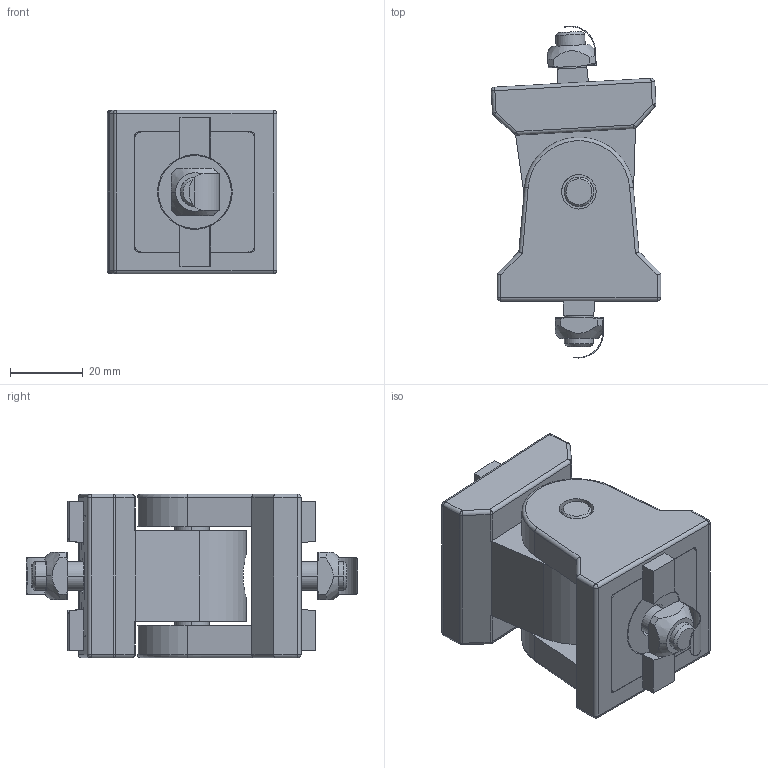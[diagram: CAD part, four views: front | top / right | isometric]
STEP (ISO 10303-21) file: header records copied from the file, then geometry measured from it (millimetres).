
FILE_DESCRIPTION (( 'STEP AP214' ), '1' );
FILE_NAME ('1.4051 Kulmauloke GL.STEP', '2025-09-11T10:58:16', ( '' ), ( '' ), 'SwSTEP 2.0', 'SolidWorks 2025', '' );
FILE_SCHEMA (( 'AUTOMOTIVE_DESIGN' ));
Length unit declared in the file: millimetre
Products named in the file (4): 1.4051 Kulmauloke GL; GL Alaosa; 1.2014 Neliömutteri M8 kiinnityslevyllä; GL Yläosa
Assembly tree (4 placements, depth 2):
  1.4051 Kulmauloke GL
    GL Alaosa
    GL Yläosa
    1.2014 Neliömutteri M8 kiinnityslevyllä  x2
Bounding box: 46.59 x 91.23 x 45 mm (x, y, z)
Volume: 1326.8 mm3; surface area: 30294.9 mm2
Topology: 2 solids, 20 shells, 276 faces, 721 edges, 458 vertices
Faces by surface type: plane 129, cylinder 103, cone 22, sphere 16, torus 6
Entity records: 9191 total; most frequent: CARTESIAN_POINT 2123, DIRECTION 1298, ORIENTED_EDGE 1124, EDGE_CURVE 622, AXIS2_PLACEMENT_3D 476, VERTEX_POINT 403, VECTOR 346, LINE 346
